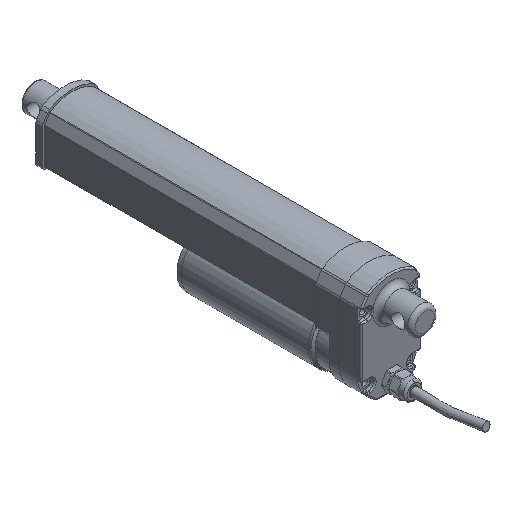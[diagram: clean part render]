
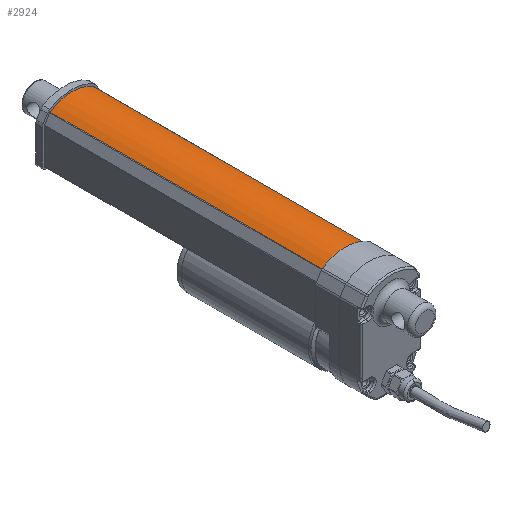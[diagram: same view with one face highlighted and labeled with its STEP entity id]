
A CAD part, isometric view. The second image highlights one B-rep face of the part: STEP entity #2924.
In plain terms, the highlighted cylindrical face has radius 30 mm (diameter 60 mm), a partial arc.
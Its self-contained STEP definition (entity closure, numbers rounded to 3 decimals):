
#248 = VERTEX_POINT ( 'NONE', #6964 ) ;
#907 = DIRECTION ( 'NONE',  ( 0., -1., 0. ) ) ;
#916 = VERTEX_POINT ( 'NONE', #6005 ) ;
#1673 = CIRCLE ( 'NONE', #4175, 30. ) ;
#2168 = VECTOR ( 'NONE', #2544, 1000. ) ;
#2280 = CARTESIAN_POINT ( 'NONE',  ( -16.325, 225.5, 31.669 ) ) ;
#2360 = CARTESIAN_POINT ( 'NONE',  ( -16.325, 225.5, 31.669 ) ) ;
#2514 = CARTESIAN_POINT ( 'NONE',  ( 0., 225.5, 6.5 ) ) ;
#2544 = DIRECTION ( 'NONE',  ( 0., 1., 0. ) ) ;
#2608 = DIRECTION ( 'NONE',  ( 0., 1., 0. ) ) ;
#2808 = EDGE_LOOP ( 'NONE', ( #8412, #6777, #4786, #3427 ) ) ;
#2924 = ADVANCED_FACE ( 'NONE', ( #4778 ), #9255, .T. ) ;
#3427 = ORIENTED_EDGE ( 'NONE', *, *, #5198, .T. ) ;
#3983 = EDGE_CURVE ( 'NONE', #248, #916, #1673, .T. ) ;
#4175 = AXIS2_PLACEMENT_3D ( 'NONE', #4692, #6095, #7659 ) ;
#4692 = CARTESIAN_POINT ( 'NONE',  ( 0., 8.5, 6.5 ) ) ;
#4778 = FACE_OUTER_BOUND ( 'NONE', #2808, .T. ) ;
#4786 = ORIENTED_EDGE ( 'NONE', *, *, #3983, .T. ) ;
#5198 = EDGE_CURVE ( 'NONE', #916, #7982, #9195, .T. ) ;
#5341 = EDGE_CURVE ( 'NONE', #7461, #248, #5850, .T. ) ;
#5850 = LINE ( 'NONE', #2280, #8881 ) ;
#5870 = AXIS2_PLACEMENT_3D ( 'NONE', #2514, #907, #7692 ) ;
#6005 = CARTESIAN_POINT ( 'NONE',  ( 16.325, 8.5, 31.669 ) ) ;
#6095 = DIRECTION ( 'NONE',  ( 0., 1., 0. ) ) ;
#6777 = ORIENTED_EDGE ( 'NONE', *, *, #5341, .T. ) ;
#6964 = CARTESIAN_POINT ( 'NONE',  ( -16.325, 8.5, 31.669 ) ) ;
#6993 = CARTESIAN_POINT ( 'NONE',  ( 16.325, 225.5, 31.669 ) ) ;
#7187 = DIRECTION ( 'NONE',  ( 1., 0., 0. ) ) ;
#7240 = AXIS2_PLACEMENT_3D ( 'NONE', #7923, #2608, #7187 ) ;
#7461 = VERTEX_POINT ( 'NONE', #2360 ) ;
#7659 = DIRECTION ( 'NONE',  ( 1., 0., 0. ) ) ;
#7692 = DIRECTION ( 'NONE',  ( -1., 0., 0. ) ) ;
#7923 = CARTESIAN_POINT ( 'NONE',  ( 0., 225.5, 6.5 ) ) ;
#7982 = VERTEX_POINT ( 'NONE', #9136 ) ;
#8412 = ORIENTED_EDGE ( 'NONE', *, *, #8871, .F. ) ;
#8495 = CIRCLE ( 'NONE', #7240, 30. ) ;
#8871 = EDGE_CURVE ( 'NONE', #7461, #7982, #8495, .T. ) ;
#8881 = VECTOR ( 'NONE', #8965, 1000. ) ;
#8965 = DIRECTION ( 'NONE',  ( 0., -1., 0. ) ) ;
#9136 = CARTESIAN_POINT ( 'NONE',  ( 16.325, 225.5, 31.669 ) ) ;
#9195 = LINE ( 'NONE', #6993, #2168 ) ;
#9255 = CYLINDRICAL_SURFACE ( 'NONE', #5870, 30. ) ;
